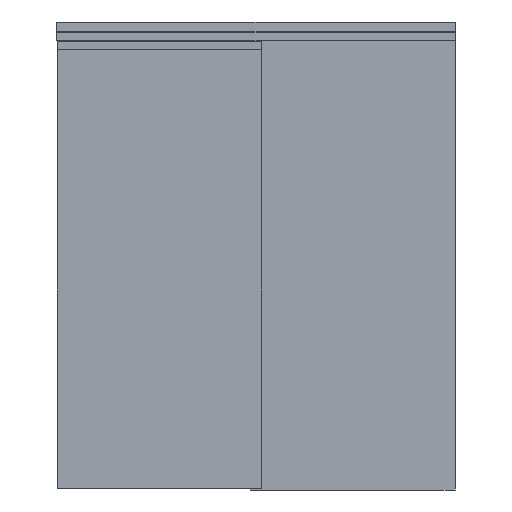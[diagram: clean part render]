
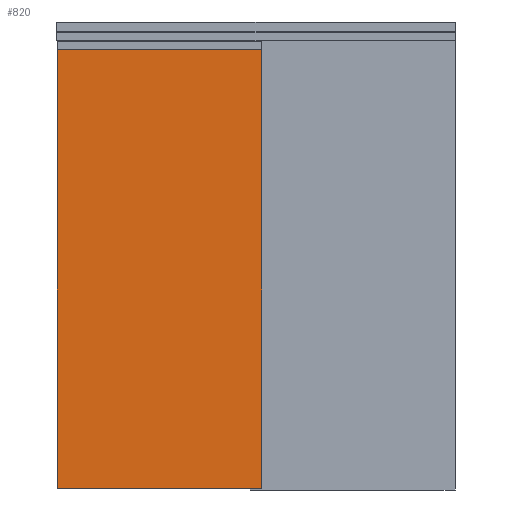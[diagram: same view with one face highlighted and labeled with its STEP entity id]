
A CAD part, front view. The second image highlights one B-rep face of the part: STEP entity #820.
In plain terms, the highlighted planar face has unit normal (0, -1, 0).
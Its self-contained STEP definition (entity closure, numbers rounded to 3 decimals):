
#820=ADVANCED_FACE('',(#1648),#1649,.T.);
#1648=FACE_OUTER_BOUND('',#2479,.T.);
#1649=PLANE('',#2480);
#2479=EDGE_LOOP('',(#4949,#4950,#4951,#4952));
#2480=AXIS2_PLACEMENT_3D('',#4953,#4954,#4955);
#4949=ORIENTED_EDGE('',*,*,#5945,.F.);
#4950=ORIENTED_EDGE('',*,*,#5940,.F.);
#4951=ORIENTED_EDGE('',*,*,#5943,.F.);
#4952=ORIENTED_EDGE('',*,*,#5946,.F.);
#4953=CARTESIAN_POINT('',(527.5,-4.,1157.0));
#4954=DIRECTION('',(0.0,-1.0,0.0));
#4955=DIRECTION('',(1.0,0.0,0.0));
#5940=EDGE_CURVE('',#7388,#7386,#7390,.T.);
#5943=EDGE_CURVE('',#7392,#7388,#7394,.T.);
#5945=EDGE_CURVE('',#7386,#7396,#7397,.T.);
#5946=EDGE_CURVE('',#7396,#7392,#7398,.T.);
#7386=VERTEX_POINT('',#9424);
#7388=VERTEX_POINT('',#9427);
#7390=LINE('',#9430,#9431);
#7392=VERTEX_POINT('',#9433);
#7394=LINE('',#9436,#9437);
#7396=VERTEX_POINT('',#9439);
#7397=LINE('',#9440,#9441);
#7398=LINE('',#9442,#9443);
#9424=CARTESIAN_POINT('',(2.,-4.,2288.0));
#9427=CARTESIAN_POINT('',(2.,-4.,9.));
#9430=CARTESIAN_POINT('',(2.,-4.,581.0));
#9431=VECTOR('',#10396,1.0);
#9433=CARTESIAN_POINT('',(1055.,-4.,9.));
#9436=CARTESIAN_POINT('',(207.315,-4.,9.));
#9437=VECTOR('',#10398,1.0);
#9439=CARTESIAN_POINT('',(1055.,-4.,2288.0));
#9440=CARTESIAN_POINT('',(527.5,-4.,2288.0));
#9441=VECTOR('',#10399,1.0);
#9442=CARTESIAN_POINT('',(1055.,-4.,581.0));
#9443=VECTOR('',#10400,1.0);
#10396=DIRECTION('',(0.0,0.0,1.0));
#10398=DIRECTION('',(-1.0,0.0,0.0));
#10399=DIRECTION('',(1.0,0.0,0.0));
#10400=DIRECTION('',(0.0,0.0,-1.0));
